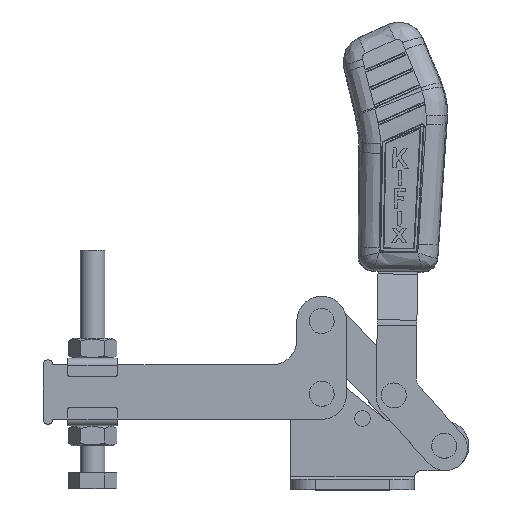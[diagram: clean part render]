
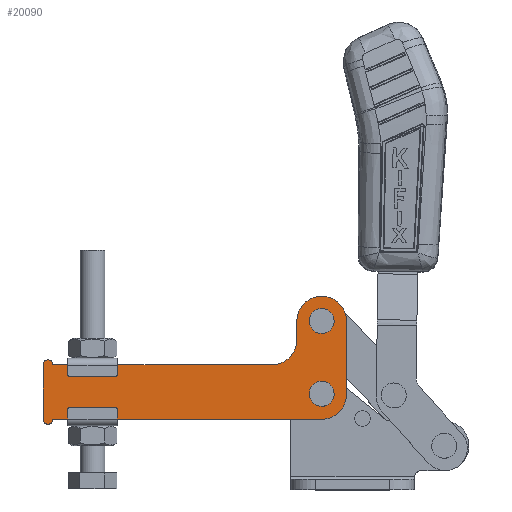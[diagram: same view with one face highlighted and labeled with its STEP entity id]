
A CAD part, top view. The second image highlights one B-rep face of the part: STEP entity #20090.
In plain terms, the highlighted planar face has unit normal (0, 0, 1).
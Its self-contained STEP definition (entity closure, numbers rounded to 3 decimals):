
#116 = VERTEX_POINT ( 'NONE', #20002 ) ;
#243 = DIRECTION ( 'NONE',  ( 0., 1., 0. ) ) ;
#417 = ORIENTED_EDGE ( 'NONE', *, *, #18685, .F. ) ;
#501 = CARTESIAN_POINT ( 'NONE',  ( 70., -0.7, 0. ) ) ;
#660 = DIRECTION ( 'NONE',  ( 0., 0., 1. ) ) ;
#702 = DIRECTION ( 'NONE',  ( -1., 0., 0. ) ) ;
#948 = EDGE_CURVE ( 'NONE', #16143, #7191, #5246, .T. ) ;
#1116 = AXIS2_PLACEMENT_3D ( 'NONE', #10070, #11972, #702 ) ;
#1553 = EDGE_CURVE ( 'NONE', #20105, #16768, #2596, .T. ) ;
#1569 = VERTEX_POINT ( 'NONE', #19254 ) ;
#1791 = VERTEX_POINT ( 'NONE', #8728 ) ;
#1951 = EDGE_CURVE ( 'NONE', #11023, #1569, #18467, .T. ) ;
#2333 = LINE ( 'NONE', #22686, #7917 ) ;
#2391 = DIRECTION ( 'NONE',  ( 1., 0., 0. ) ) ;
#2494 = DIRECTION ( 'NONE',  ( 0., 0., 1. ) ) ;
#2596 = LINE ( 'NONE', #11799, #17014 ) ;
#2635 = ORIENTED_EDGE ( 'NONE', *, *, #2643, .T. ) ;
#2643 = EDGE_CURVE ( 'NONE', #3882, #116, #10838, .T. ) ;
#2706 = EDGE_CURVE ( 'NONE', #18949, #23914, #6397, .T. ) ;
#2739 = CIRCLE ( 'NONE', #3464, 4. ) ;
#2816 = DIRECTION ( 'NONE',  ( 1., 0., 0. ) ) ;
#3200 = ORIENTED_EDGE ( 'NONE', *, *, #9396, .T. ) ;
#3233 = CARTESIAN_POINT ( 'NONE',  ( 70., -0.7, 0. ) ) ;
#3292 = EDGE_CURVE ( 'NONE', #1569, #11023, #17552, .T. ) ;
#3464 = AXIS2_PLACEMENT_3D ( 'NONE', #11927, #660, #13806 ) ;
#3545 = CIRCLE ( 'NONE', #7378, 2. ) ;
#3882 = VERTEX_POINT ( 'NONE', #23811 ) ;
#4319 = CARTESIAN_POINT ( 'NONE',  ( 70., -1., 0. ) ) ;
#4456 = FACE_BOUND ( 'NONE', #20387, .T. ) ;
#4484 = ORIENTED_EDGE ( 'NONE', *, *, #23202, .T. ) ;
#4816 = DIRECTION ( 'NONE',  ( -1., 0., 0. ) ) ;
#5038 = FACE_OUTER_BOUND ( 'NONE', #16876, .T. ) ;
#5128 = DIRECTION ( 'NONE',  ( 1., 0., 0. ) ) ;
#5246 = CIRCLE ( 'NONE', #18752, 10. ) ;
#5295 = AXIS2_PLACEMENT_3D ( 'NONE', #8705, #21815, #10603 ) ;
#5298 = CARTESIAN_POINT ( 'NONE',  ( -40.5, -11., 0. ) ) ;
#5946 = CARTESIAN_POINT ( 'NONE',  ( -40.5, 11., 0. ) ) ;
#6334 = DIRECTION ( 'NONE',  ( 0., 0., 1. ) ) ;
#6397 = CIRCLE ( 'NONE', #17522, 4. ) ;
#6447 = ORIENTED_EDGE ( 'NONE', *, *, #10558, .T. ) ;
#6488 = CARTESIAN_POINT ( 'NONE',  ( 4., -11., 0. ) ) ;
#7191 = VERTEX_POINT ( 'NONE', #9617 ) ;
#7196 = DIRECTION ( 'NONE',  ( 1., 0., 0. ) ) ;
#7369 = DIRECTION ( 'NONE',  ( 0., 0., 1. ) ) ;
#7378 = AXIS2_PLACEMENT_3D ( 'NONE', #5946, #19083, #7850 ) ;
#7850 = DIRECTION ( 'NONE',  ( -1., 0., 0. ) ) ;
#7917 = VECTOR ( 'NONE', #243, 1000. ) ;
#7930 = VERTEX_POINT ( 'NONE', #22045 ) ;
#8479 = LINE ( 'NONE', #21627, #23400 ) ;
#8705 = CARTESIAN_POINT ( 'NONE',  ( 50., 21., 0. ) ) ;
#8728 = CARTESIAN_POINT ( 'NONE',  ( 80., 28.7, 0. ) ) ;
#8954 = ORIENTED_EDGE ( 'NONE', *, *, #15435, .T. ) ;
#8991 = ORIENTED_EDGE ( 'NONE', *, *, #1553, .T. ) ;
#9013 = ORIENTED_EDGE ( 'NONE', *, *, #2706, .F. ) ;
#9197 = LINE ( 'NONE', #6488, #23497 ) ;
#9341 = CARTESIAN_POINT ( 'NONE',  ( 60., 21., 0. ) ) ;
#9396 = EDGE_CURVE ( 'NONE', #7930, #3882, #11405, .T. ) ;
#9617 = CARTESIAN_POINT ( 'NONE',  ( 80., -1., 0. ) ) ;
#9942 = ORIENTED_EDGE ( 'NONE', *, *, #3292, .F. ) ;
#9977 = CARTESIAN_POINT ( 'NONE',  ( 50., 11., 0. ) ) ;
#10070 = CARTESIAN_POINT ( 'NONE',  ( 2., 11., 0. ) ) ;
#10558 = EDGE_CURVE ( 'NONE', #17680, #7930, #3545, .T. ) ;
#10603 = DIRECTION ( 'NONE',  ( -1., 0., 0. ) ) ;
#10770 = CARTESIAN_POINT ( 'NONE',  ( 66., -0.7, 0. ) ) ;
#10838 = CIRCLE ( 'NONE', #16270, 2. ) ;
#11023 = VERTEX_POINT ( 'NONE', #10770 ) ;
#11277 = CARTESIAN_POINT ( 'NONE',  ( 66., 28.7, 0. ) ) ;
#11405 = LINE ( 'NONE', #11527, #20781 ) ;
#11527 = CARTESIAN_POINT ( 'NONE',  ( -42.5, 11., 0. ) ) ;
#11787 = DIRECTION ( 'NONE',  ( 1., 0., 0. ) ) ;
#11799 = CARTESIAN_POINT ( 'NONE',  ( 60., 28.7, 0. ) ) ;
#11844 = VERTEX_POINT ( 'NONE', #9977 ) ;
#11927 = CARTESIAN_POINT ( 'NONE',  ( 70., 28.7, 0. ) ) ;
#11972 = DIRECTION ( 'NONE',  ( 0., 0., -1. ) ) ;
#12224 = EDGE_CURVE ( 'NONE', #11844, #17680, #8479, .T. ) ;
#12384 = AXIS2_PLACEMENT_3D ( 'NONE', #17586, #6334, #19455 ) ;
#13421 = DIRECTION ( 'NONE',  ( 0., -1., 0. ) ) ;
#13634 = DIRECTION ( 'NONE',  ( 0., 0., 1. ) ) ;
#13690 = DIRECTION ( 'NONE',  ( 0., -1., 0. ) ) ;
#13691 = CIRCLE ( 'NONE', #12384, 10. ) ;
#13806 = DIRECTION ( 'NONE',  ( 1., 0., 0. ) ) ;
#13853 = CARTESIAN_POINT ( 'NONE',  ( 60., 28.7, 0. ) ) ;
#15183 = EDGE_CURVE ( 'NONE', #16768, #11844, #22175, .T. ) ;
#15435 = EDGE_CURVE ( 'NONE', #1791, #20105, #13691, .T. ) ;
#15913 = ORIENTED_EDGE ( 'NONE', *, *, #948, .T. ) ;
#16143 = VERTEX_POINT ( 'NONE', #17795 ) ;
#16270 = AXIS2_PLACEMENT_3D ( 'NONE', #5298, #18457, #7196 ) ;
#16403 = DIRECTION ( 'NONE',  ( 0., 0., 1. ) ) ;
#16768 = VERTEX_POINT ( 'NONE', #9341 ) ;
#16819 = ORIENTED_EDGE ( 'NONE', *, *, #1951, .F. ) ;
#16876 = EDGE_LOOP ( 'NONE', ( #6447, #3200, #2635, #22684, #15913, #4484, #8954, #8991, #21524, #21357 ) ) ;
#17014 = VECTOR ( 'NONE', #13690, 1000. ) ;
#17522 = AXIS2_PLACEMENT_3D ( 'NONE', #18620, #7369, #20497 ) ;
#17552 = CIRCLE ( 'NONE', #20365, 4. ) ;
#17586 = CARTESIAN_POINT ( 'NONE',  ( 70., 28.7, 0. ) ) ;
#17680 = VERTEX_POINT ( 'NONE', #21769 ) ;
#17795 = CARTESIAN_POINT ( 'NONE',  ( 70., -11., 0. ) ) ;
#18282 = EDGE_LOOP ( 'NONE', ( #9013, #417 ) ) ;
#18457 = DIRECTION ( 'NONE',  ( 0., 0., 1. ) ) ;
#18467 = CIRCLE ( 'NONE', #22338, 4. ) ;
#18620 = CARTESIAN_POINT ( 'NONE',  ( 70., 28.7, 0. ) ) ;
#18685 = EDGE_CURVE ( 'NONE', #23914, #18949, #2739, .T. ) ;
#18752 = AXIS2_PLACEMENT_3D ( 'NONE', #4319, #2494, #11787 ) ;
#18949 = VERTEX_POINT ( 'NONE', #24222 ) ;
#19083 = DIRECTION ( 'NONE',  ( 0., 0., 1. ) ) ;
#19254 = CARTESIAN_POINT ( 'NONE',  ( 74., -0.7, 0. ) ) ;
#19432 = FACE_BOUND ( 'NONE', #18282, .T. ) ;
#19455 = DIRECTION ( 'NONE',  ( 1., 0., 0. ) ) ;
#19686 = EDGE_CURVE ( 'NONE', #116, #16143, #9197, .T. ) ;
#20002 = CARTESIAN_POINT ( 'NONE',  ( -38.5, -11., 0. ) ) ;
#20090 = ADVANCED_FACE ( 'NONE', ( #4456, #19432, #5038 ), #21293, .F. ) ;
#20105 = VERTEX_POINT ( 'NONE', #13853 ) ;
#20365 = AXIS2_PLACEMENT_3D ( 'NONE', #501, #13634, #2391 ) ;
#20387 = EDGE_LOOP ( 'NONE', ( #9942, #16819 ) ) ;
#20497 = DIRECTION ( 'NONE',  ( 1., 0., 0. ) ) ;
#20781 = VECTOR ( 'NONE', #13421, 1000. ) ;
#21293 = PLANE ( 'NONE',  #1116 ) ;
#21357 = ORIENTED_EDGE ( 'NONE', *, *, #12224, .T. ) ;
#21524 = ORIENTED_EDGE ( 'NONE', *, *, #15183, .T. ) ;
#21627 = CARTESIAN_POINT ( 'NONE',  ( 50., 11., 0. ) ) ;
#21769 = CARTESIAN_POINT ( 'NONE',  ( -38.5, 11., 0. ) ) ;
#21815 = DIRECTION ( 'NONE',  ( 0., 0., -1. ) ) ;
#22045 = CARTESIAN_POINT ( 'NONE',  ( -42.5, 11., 0. ) ) ;
#22175 = CIRCLE ( 'NONE', #5295, 10. ) ;
#22338 = AXIS2_PLACEMENT_3D ( 'NONE', #3233, #16403, #5128 ) ;
#22684 = ORIENTED_EDGE ( 'NONE', *, *, #19686, .T. ) ;
#22686 = CARTESIAN_POINT ( 'NONE',  ( 80., -1., 0. ) ) ;
#23202 = EDGE_CURVE ( 'NONE', #7191, #1791, #2333, .T. ) ;
#23400 = VECTOR ( 'NONE', #4816, 1000. ) ;
#23497 = VECTOR ( 'NONE', #2816, 1000. ) ;
#23811 = CARTESIAN_POINT ( 'NONE',  ( -42.5, -11., 0. ) ) ;
#23914 = VERTEX_POINT ( 'NONE', #11277 ) ;
#24222 = CARTESIAN_POINT ( 'NONE',  ( 74., 28.7, 0. ) ) ;
